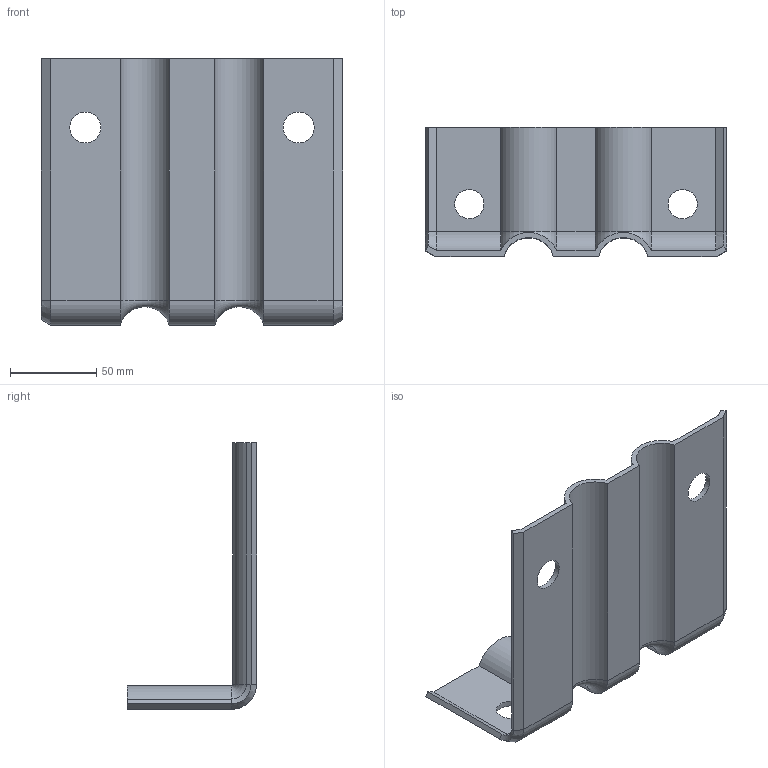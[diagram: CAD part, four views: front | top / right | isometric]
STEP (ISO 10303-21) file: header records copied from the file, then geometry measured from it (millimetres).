
FILE_DESCRIPTION(/* description */ (''),/* implementation_level */ '2;1');
FILE_NAME(/* name */ 'SC220.stp',/* time_stamp */ '2024-11-04T10:14:33+01:00',/* author */ ('woriedl'),/* organization */ (''),/* preprocessor_version */ 'ST-DEVELOPER v20',/* originating_system */ 'AutoCAD Mechanical',/* authorisation */ '');
FILE_SCHEMA (('AUTOMOTIVE_DESIGN { 1 0 10303 214 3 1 1 }'));
Length unit declared in the file: millimetre
Products named in the file (1): Product
Bounding box: 175 x 75 x 155 mm (x, y, z)
Volume: 126595.8 mm3; surface area: 85065.8 mm2
Topology: 1 solids, 1 shells, 54 faces, 124 edges, 72 vertices
Faces by surface type: plane 26, cylinder 18, cone 6, torus 4
Full cylindrical faces by diameter (mm): 17 x2, 18 x2
Entity records: 1531 total; most frequent: DIRECTION 274, CARTESIAN_POINT 251, ORIENTED_EDGE 248, EDGE_CURVE 124, AXIS2_PLACEMENT_3D 95, LINE 84, VECTOR 84, VERTEX_POINT 72
